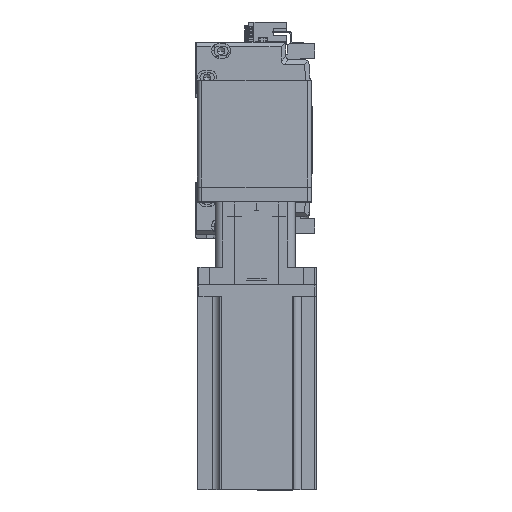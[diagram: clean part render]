
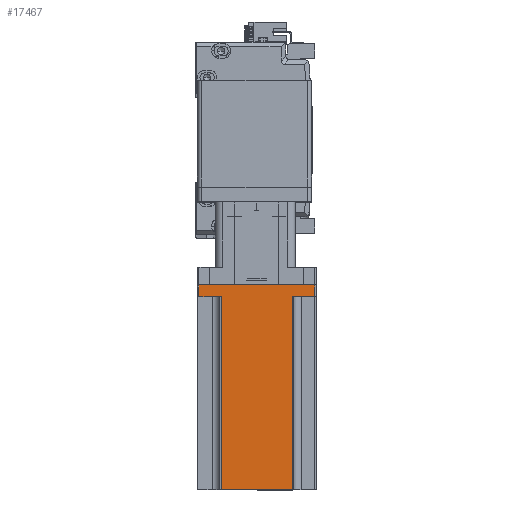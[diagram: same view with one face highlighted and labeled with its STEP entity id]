
A CAD part, top view. The second image highlights one B-rep face of the part: STEP entity #17467.
In plain terms, the highlighted planar face has unit normal (0, 0, 1) as drawn and (0, 1, 0) by its records, which use the part's own axes.
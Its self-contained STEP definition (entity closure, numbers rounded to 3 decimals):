
#796 = DIRECTION ( 'NONE',  ( -1., 0., 0. ) ) ;
#1319 = LINE ( 'NONE', #29747, #45344 ) ;
#3959 = CARTESIAN_POINT ( 'NONE',  ( -25., 40., 8. ) ) ;
#4636 = EDGE_CURVE ( 'NONE', #16624, #22737, #42343, .T. ) ;
#4958 = VERTEX_POINT ( 'NONE', #14423 ) ;
#6508 = CARTESIAN_POINT ( 'NONE',  ( -39., 40., 8. ) ) ;
#6938 = CARTESIAN_POINT ( 'NONE',  ( 40., 40., 138.3 ) ) ;
#7255 = DIRECTION ( 'NONE',  ( 0., 0., -1. ) ) ;
#7846 = ORIENTED_EDGE ( 'NONE', *, *, #24354, .T. ) ;
#8126 = AXIS2_PLACEMENT_3D ( 'NONE', #13522, #42437, #17659 ) ;
#8651 = DIRECTION ( 'NONE',  ( -1., 0., 0. ) ) ;
#9805 = CARTESIAN_POINT ( 'NONE',  ( 24., 40., 138.3 ) ) ;
#10637 = VECTOR ( 'NONE', #23291, 1000. ) ;
#11703 = ORIENTED_EDGE ( 'NONE', *, *, #14146, .T. ) ;
#13522 = CARTESIAN_POINT ( 'NONE',  ( 40., 40., 138.3 ) ) ;
#13812 = VERTEX_POINT ( 'NONE', #41297 ) ;
#14146 = EDGE_CURVE ( 'NONE', #27537, #38945, #26695, .T. ) ;
#14423 = CARTESIAN_POINT ( 'NONE',  ( -24., 40., 8. ) ) ;
#14558 = ORIENTED_EDGE ( 'NONE', *, *, #40144, .F. ) ;
#14916 = EDGE_CURVE ( 'NONE', #16624, #38945, #1319, .T. ) ;
#16485 = EDGE_CURVE ( 'NONE', #13812, #44601, #41867, .T. ) ;
#16624 = VERTEX_POINT ( 'NONE', #47419 ) ;
#17467 = ADVANCED_FACE ( 'NONE', ( #18390 ), #25794, .F. ) ;
#17659 = DIRECTION ( 'NONE',  ( 1., 0., 0. ) ) ;
#17754 = DIRECTION ( 'NONE',  ( 0., 0., 1. ) ) ;
#18390 = FACE_OUTER_BOUND ( 'NONE', #31536, .T. ) ;
#18804 = CARTESIAN_POINT ( 'NONE',  ( 24., 40., 8. ) ) ;
#19331 = ORIENTED_EDGE ( 'NONE', *, *, #31978, .T. ) ;
#22737 = VERTEX_POINT ( 'NONE', #50825 ) ;
#22940 = DIRECTION ( 'NONE',  ( 0., 0., 1. ) ) ;
#23291 = DIRECTION ( 'NONE',  ( 0., 0., -1. ) ) ;
#24354 = EDGE_CURVE ( 'NONE', #44601, #4958, #29818, .T. ) ;
#24561 = DIRECTION ( 'NONE',  ( 1., 0., 0. ) ) ;
#25053 = ORIENTED_EDGE ( 'NONE', *, *, #14916, .F. ) ;
#25794 = PLANE ( 'NONE',  #8126 ) ;
#26477 = VECTOR ( 'NONE', #22940, 1000. ) ;
#26695 = LINE ( 'NONE', #32034, #36427 ) ;
#27537 = VERTEX_POINT ( 'NONE', #9805 ) ;
#27691 = EDGE_CURVE ( 'NONE', #4958, #43369, #37509, .T. ) ;
#29747 = CARTESIAN_POINT ( 'NONE',  ( 25., 40., 8. ) ) ;
#29818 = LINE ( 'NONE', #3959, #40825 ) ;
#30704 = LINE ( 'NONE', #37586, #41706 ) ;
#31536 = EDGE_LOOP ( 'NONE', ( #7846, #36753, #14558, #11703, #25053, #53237, #19331, #45197 ) ) ;
#31978 = EDGE_CURVE ( 'NONE', #22737, #13812, #30704, .T. ) ;
#32034 = CARTESIAN_POINT ( 'NONE',  ( 24., 40., 138.3 ) ) ;
#32516 = CARTESIAN_POINT ( 'NONE',  ( -24., 40., 138.3 ) ) ;
#36427 = VECTOR ( 'NONE', #7255, 1000. ) ;
#36753 = ORIENTED_EDGE ( 'NONE', *, *, #27691, .T. ) ;
#37509 = LINE ( 'NONE', #47740, #26477 ) ;
#37586 = CARTESIAN_POINT ( 'NONE',  ( 40., 40., 0. ) ) ;
#38945 = VERTEX_POINT ( 'NONE', #18804 ) ;
#40144 = EDGE_CURVE ( 'NONE', #27537, #43369, #53014, .T. ) ;
#40825 = VECTOR ( 'NONE', #24561, 1000. ) ;
#41297 = CARTESIAN_POINT ( 'NONE',  ( -39., 40., 0. ) ) ;
#41706 = VECTOR ( 'NONE', #8651, 1000. ) ;
#41867 = LINE ( 'NONE', #46720, #52891 ) ;
#42001 = VECTOR ( 'NONE', #52543, 1000. ) ;
#42343 = LINE ( 'NONE', #48091, #10637 ) ;
#42437 = DIRECTION ( 'NONE',  ( 0., -1., 0. ) ) ;
#43369 = VERTEX_POINT ( 'NONE', #32516 ) ;
#44601 = VERTEX_POINT ( 'NONE', #6508 ) ;
#45197 = ORIENTED_EDGE ( 'NONE', *, *, #16485, .T. ) ;
#45344 = VECTOR ( 'NONE', #796, 1000. ) ;
#46720 = CARTESIAN_POINT ( 'NONE',  ( -39., 40., 138.3 ) ) ;
#47419 = CARTESIAN_POINT ( 'NONE',  ( 39., 40., 8. ) ) ;
#47740 = CARTESIAN_POINT ( 'NONE',  ( -24., 40., 138.3 ) ) ;
#48091 = CARTESIAN_POINT ( 'NONE',  ( 39., 40., 138.3 ) ) ;
#50825 = CARTESIAN_POINT ( 'NONE',  ( 39., 40., 0. ) ) ;
#52543 = DIRECTION ( 'NONE',  ( -1., 0., 0. ) ) ;
#52891 = VECTOR ( 'NONE', #17754, 1000. ) ;
#53014 = LINE ( 'NONE', #6938, #42001 ) ;
#53237 = ORIENTED_EDGE ( 'NONE', *, *, #4636, .T. ) ;
